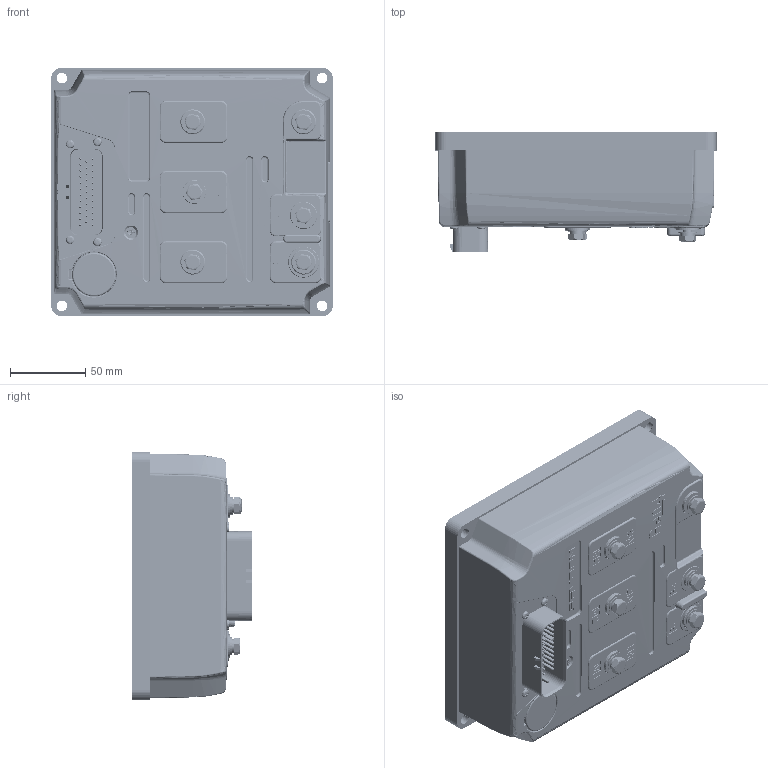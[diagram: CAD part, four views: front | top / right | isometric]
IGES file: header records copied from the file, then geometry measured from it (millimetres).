
Start section: SolidWorks IGES file using analytic representation for surfaces
Global section: file name: N:\UK\CAD\CAD Shared\Gen4\Gen4 models\Gen4 SIZE 2 CUSTOMER MODEL.IGS; native system: SolidWorks 2010; preprocessor: SolidWorks 2010; author: steve.jacobson; date: 110314.122532; units: millimetre
Bounding box: 186.5 x 79.35 x 165 mm (x, y, z)
Surface area: 270364.1 mm2 (no closed solid volume)
Topology: 0 solids, 0 shells, 5685 faces, 52577 edges, 52449 vertices
Faces by surface type: bspline 4364, revolution 1321
